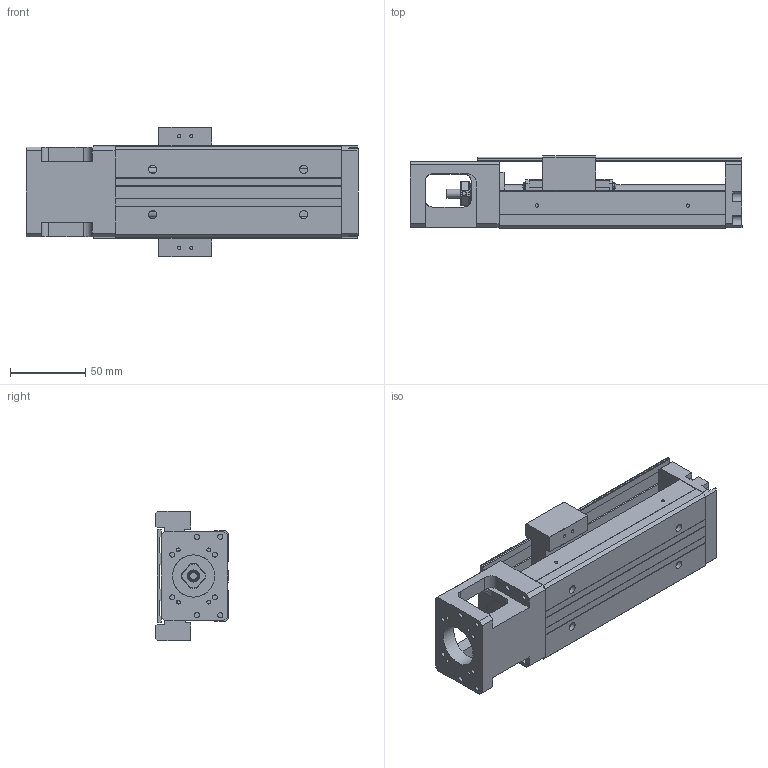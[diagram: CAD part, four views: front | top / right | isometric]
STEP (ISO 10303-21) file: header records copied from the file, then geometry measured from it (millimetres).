
FILE_DESCRIPTION(/* description */ (''),/* implementation_level */ '2;1');
FILE_NAME(/* name */ 'KP33S-C-150.stp',/* time_stamp */ '2020-06-04T17:39:34+08:00',/* author */ (''),/* organization */ (''),/* preprocessor_version */ 'ST-DEVELOPER v14',/* originating_system */ 'SIEMENS PLM Software NX 8.0',/* authorisation */ '');
FILE_SCHEMA (('AUTOMOTIVE_DESIGN { 1 0 10303 214 3 1 1 1 }'));
Length unit declared in the file: millimetre
Products named in the file (1): model1
Bounding box: 220 x 47.95 x 86 mm (x, y, z)
Volume: 355401.6 mm3; surface area: 120221.2 mm2
Topology: 7 solids, 12 shells, 657 faces, 1695 edges, 1120 vertices
Faces by surface type: plane 400, cylinder 172, bspline 31, cone 22, extrusion 21, torus 9, revolution 2
Full cylindrical faces by diameter (mm): 1.6 x2, 1.65 x4, 2.15 x6, 2.42 x4, 2.45 x8, 2.5 x8, 3.2 x4, 3.3 x4, 3.4 x4, 3.5 x10, 3.969 x1, 4 x4, 4.001 x1, 4.135 x2, 4.2 x2, 5.5 x4, 6 x5, 7.6 x1, 8 x5, 9.5 x4, 10.72 x3, 11.8 x2, 12 x1, 12.8 x1, 13 x2, 14 x1, 17.38 x3, 21.5 x1, 22 x2, 28 x1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
Entity records: 35002 total; most frequent: CARTESIAN_POINT 16144, DIRECTION 3022, ORIENTED_EDGE 2984, EDGE_CURVE 1492, VERTEX_POINT 1049, AXIS2_PLACEMENT_3D 1035, VECTOR 950, LINE 929
